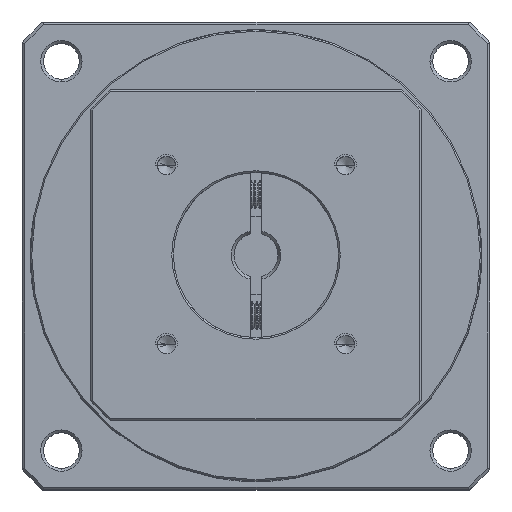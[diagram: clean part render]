
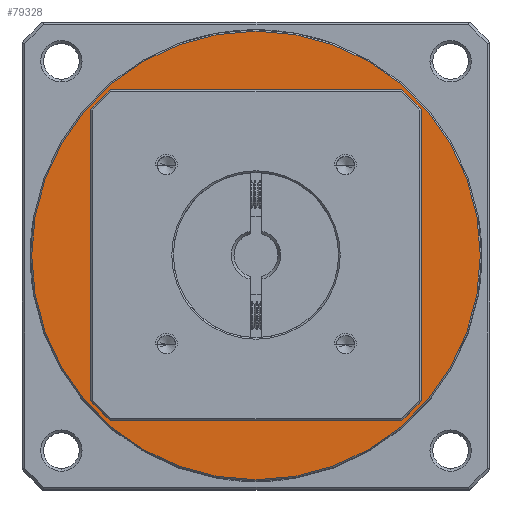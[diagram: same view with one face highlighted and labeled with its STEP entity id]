
A CAD part, top view. The second image highlights one B-rep face of the part: STEP entity #79328.
In plain terms, the highlighted planar face has unit normal (0, 0, 1).
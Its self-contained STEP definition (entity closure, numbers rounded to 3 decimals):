
#1461 = EDGE_CURVE ( 'NONE', #28867, #32323, #51204, .T. ) ;
#2801 = DIRECTION ( 'NONE',  ( 0., 0., -1. ) ) ;
#3942 = DIRECTION ( 'NONE',  ( 0., 0., -1. ) ) ;
#4526 = DIRECTION ( 'NONE',  ( -1., 0., 0. ) ) ;
#5975 = CARTESIAN_POINT ( 'NONE',  ( -63.704, 21.409, -20.099 ) ) ;
#13113 = ORIENTED_EDGE ( 'NONE', *, *, #101706, .F. ) ;
#14797 = DIRECTION ( 'NONE',  ( 0., 1., 0. ) ) ;
#16280 = AXIS2_PLACEMENT_3D ( 'NONE', #99707, #47085, #108547 ) ;
#18565 = CIRCLE ( 'NONE', #61624, 40.75 ) ;
#21417 = EDGE_LOOP ( 'NONE', ( #13113, #86573 ) ) ;
#25296 = CARTESIAN_POINT ( 'NONE',  ( -33.704, 21.409, -20.099 ) ) ;
#28867 = VERTEX_POINT ( 'NONE', #101040 ) ;
#32323 = VERTEX_POINT ( 'NONE', #25296 ) ;
#32784 = AXIS2_PLACEMENT_3D ( 'NONE', #109845, #57177, #4526 ) ;
#35561 = EDGE_LOOP ( 'NONE', ( #72654, #106574 ) ) ;
#47085 = DIRECTION ( 'NONE',  ( 0., 0., 1. ) ) ;
#50593 = AXIS2_PLACEMENT_3D ( 'NONE', #5975, #67493, #14797 ) ;
#51204 = CIRCLE ( 'NONE', #99797, 30. ) ;
#55044 = FACE_OUTER_BOUND ( 'NONE', #21417, .T. ) ;
#55437 = CARTESIAN_POINT ( 'NONE',  ( -63.704, 21.409, -20.099 ) ) ;
#56576 = CARTESIAN_POINT ( 'NONE',  ( -63.704, 21.409, -20.099 ) ) ;
#57177 = DIRECTION ( 'NONE',  ( 0., 0., -1. ) ) ;
#58527 = EDGE_CURVE ( 'NONE', #75991, #64712, #18565, .T. ) ;
#60876 = CARTESIAN_POINT ( 'NONE',  ( -63.704, 62.159, -20.099 ) ) ;
#61624 = AXIS2_PLACEMENT_3D ( 'NONE', #55437, #2801, #64239 ) ;
#64239 = DIRECTION ( 'NONE',  ( 0., 1., 0. ) ) ;
#64328 = PLANE ( 'NONE',  #16280 ) ;
#64712 = VERTEX_POINT ( 'NONE', #60876 ) ;
#65411 = DIRECTION ( 'NONE',  ( -1., 0., 0. ) ) ;
#67493 = DIRECTION ( 'NONE',  ( 0., 0., -1. ) ) ;
#72292 = CIRCLE ( 'NONE', #32784, 30. ) ;
#72654 = ORIENTED_EDGE ( 'NONE', *, *, #1461, .T. ) ;
#75587 = FACE_BOUND ( 'NONE', #35561, .T. ) ;
#75991 = VERTEX_POINT ( 'NONE', #110871 ) ;
#79328 = ADVANCED_FACE ( 'NONE', ( #55044, #75587 ), #64328, .T. ) ;
#84643 = CIRCLE ( 'NONE', #50593, 40.75 ) ;
#86573 = ORIENTED_EDGE ( 'NONE', *, *, #58527, .F. ) ;
#99707 = CARTESIAN_POINT ( 'NONE',  ( -63.704, 21.409, -20.099 ) ) ;
#99797 = AXIS2_PLACEMENT_3D ( 'NONE', #56576, #3942, #65411 ) ;
#101040 = CARTESIAN_POINT ( 'NONE',  ( -93.704, 21.409, -20.099 ) ) ;
#101706 = EDGE_CURVE ( 'NONE', #64712, #75991, #84643, .T. ) ;
#106126 = EDGE_CURVE ( 'NONE', #32323, #28867, #72292, .T. ) ;
#106574 = ORIENTED_EDGE ( 'NONE', *, *, #106126, .T. ) ;
#108547 = DIRECTION ( 'NONE',  ( 1., 0., 0. ) ) ;
#109845 = CARTESIAN_POINT ( 'NONE',  ( -63.704, 21.409, -20.099 ) ) ;
#110871 = CARTESIAN_POINT ( 'NONE',  ( -63.704, -19.341, -20.099 ) ) ;
